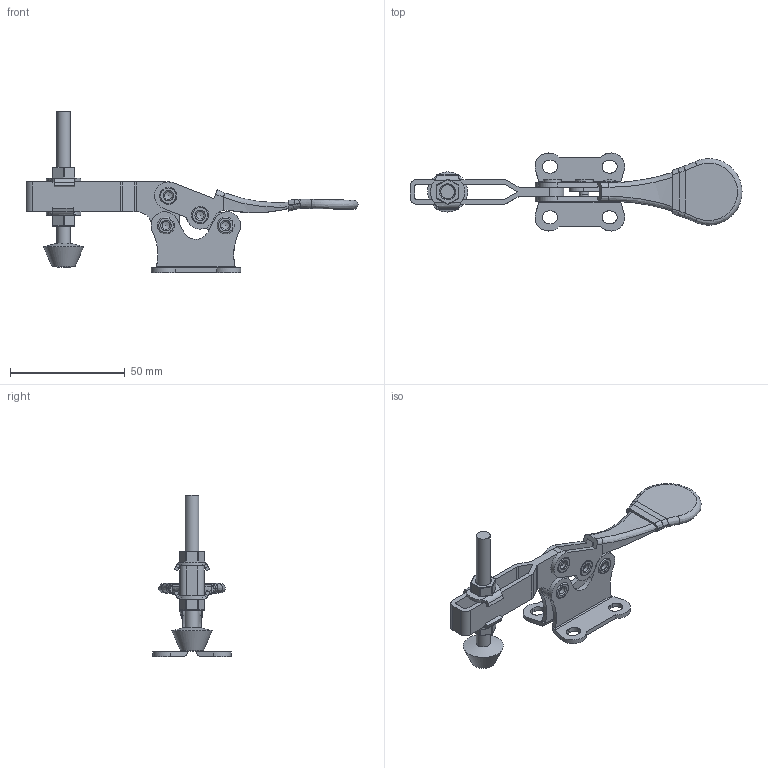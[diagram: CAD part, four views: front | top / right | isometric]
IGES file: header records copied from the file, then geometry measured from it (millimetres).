
Global section: file name: DR_009-21F; native system: Autodesk Inventor 2015; preprocessor: unknown; author: Administrator; date: 20180302.144309; units: millimetre
Bounding box: 144.66 x 33.99 x 70.2 mm (x, y, z)
Volume: 19051.9 mm3; surface area: 21284.1 mm2
Topology: 10 solids, 10 shells, 346 faces, 873 edges, 557 vertices
Faces by surface type: bspline 346
